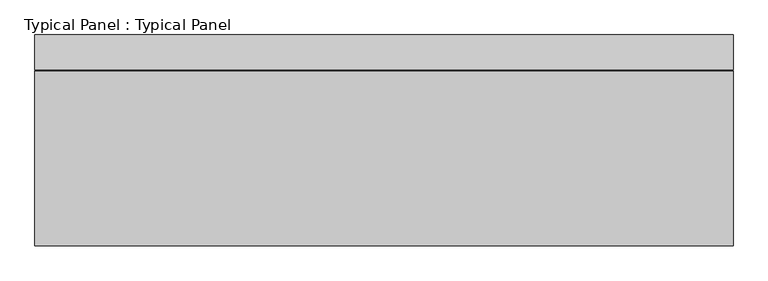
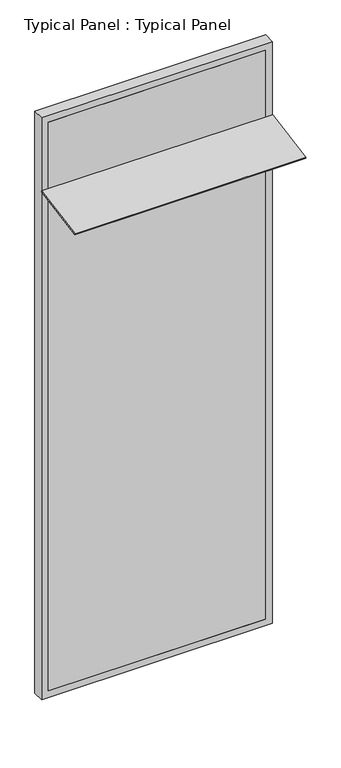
"""IFC4 building model written with IfcOpenShell, lengths in millimetres: plate geometry, Typical Panel : Typical Panel."""

from ifc_helpers import new_model, si_unit, frame, origin, place, context, project, spatial, polyline, outline, extrude, source, transform, mapped, element, save


def typical_panel_typical_panel_530a7cf6(model_context):
    return source(origin(), model_context, "Body", "SweptSolid", [
        extrude(outline(polyline([(0.0, -380.0000001), (0.0, 0.0), (1500.0, 0.0), (1500.0, -380.0000001), (0.0, -380.0000001)])), frame((750.0, -377.4904644, 3424.165615), z_axis=(0.0, -0.17364817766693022, 0.9848077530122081), x_axis=(-1.0, 0.0, 0.0)), (0.0, 0.0, 1.0), 10.0),
        extrude(outline(polyline([(0.0, -750.0), (0.0, 750.0), (4000.0, 750.0), (4000.0, -750.0), (0.0, -750.0)]), holes=[polyline([(45.0, 705.0), (45.0, -705.0), (3955.0, -705.0), (3955.0, 705.0), (45.0, 705.0)])]), frame((0.0, -1.5797986, 0.0), z_axis=(0.0, 1.0, 0.0), x_axis=(0.0, 0.0, 1.0)), (0.0, 0.0, 1.0), 75.0),
        extrude(outline(polyline([(705.0, -1.5797986), (-705.0, -1.5797986), (-705.0, 13.4202014), (705.0, 13.4202014), (705.0, -1.5797986)])), frame((0.0, 0.0, 45.0), z_axis=(0.0, 0.0, 1.0), x_axis=(1.0, 0.0, 0.0)), (0.0, 0.0, 1.0), 3910.0),
    ])


if __name__ == "__main__":
    model = new_model("IFC4")
    model_context = context("Model", 3, world=origin())
    ifc_project = project(units=[si_unit("LENGTHUNIT", "METRE", prefix="MILLI")], contexts=[model_context])
    site = spatial("IfcSite", under=ifc_project)
    building = spatial("IfcBuilding", under=site)
    placement = place(None, origin())
    typical_panel_typical_panel_shape = typical_panel_typical_panel_530a7cf6(model_context)
    element("IfcPlate", 1, ObjectType="Typical Panel : Typical Panel", at=placement, inside=building, context=model_context, shape_type="MappedRepresentation", body=[
        mapped(typical_panel_typical_panel_shape, transform((0.0, 0.0, 0.0), x_axis=(1.0, 0.0, 0.0), y_axis=(0.0, 1.0, 0.0), z_axis=(0.0, 0.0, 1.0))),
    ])
    save(model, "model.ifc")
